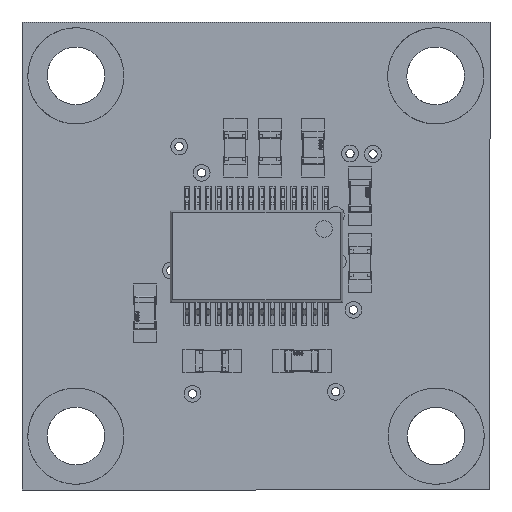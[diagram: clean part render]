
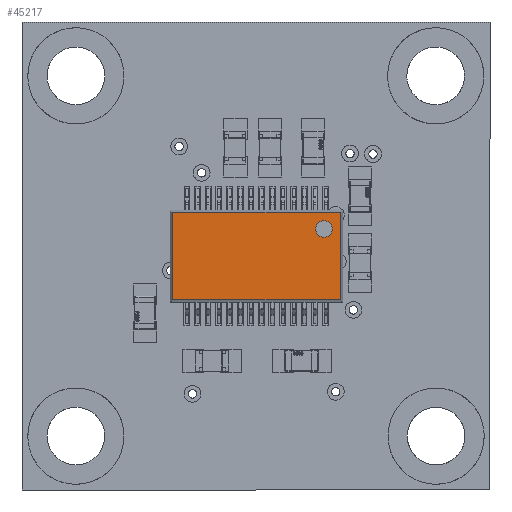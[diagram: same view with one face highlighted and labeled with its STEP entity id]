
A CAD part, front view. The second image highlights one B-rep face of the part: STEP entity #45217.
In plain terms, the highlighted planar face has unit normal (0, -1, 0).
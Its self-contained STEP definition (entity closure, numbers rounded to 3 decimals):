
#1574 = EDGE_LOOP ( 'NONE', ( #55185, #66506 ) ) ;
#3902 = VECTOR ( 'NONE', #50177, 1000. ) ;
#6732 = VERTEX_POINT ( 'NONE', #42696 ) ;
#8386 = CARTESIAN_POINT ( 'NONE',  ( 5.131, -3.631, -2.67 ) ) ;
#9967 = DIRECTION ( 'NONE',  ( -1., 0., 0. ) ) ;
#13702 = CARTESIAN_POINT ( 'NONE',  ( 5.131, -3.631, 2.637 ) ) ;
#13741 = DIRECTION ( 'NONE',  ( -1., 0., 0. ) ) ;
#14467 = CIRCLE ( 'NONE', #46772, 0.5 ) ;
#15947 = VERTEX_POINT ( 'NONE', #8386 ) ;
#15967 = LINE ( 'NONE', #37533, #3902 ) ;
#16150 = CARTESIAN_POINT ( 'NONE',  ( 4.631, -3.631, 1.637 ) ) ;
#17526 = ORIENTED_EDGE ( 'NONE', *, *, #83028, .F. ) ;
#19295 = DIRECTION ( 'NONE',  ( -1., 0., 0. ) ) ;
#19433 = EDGE_LOOP ( 'NONE', ( #47660, #74478, #40018, #17526 ) ) ;
#23121 = CARTESIAN_POINT ( 'NONE',  ( 4.131, -3.631, 1.637 ) ) ;
#23939 = LINE ( 'NONE', #81767, #69023 ) ;
#24561 = DIRECTION ( 'NONE',  ( 1., 0., 0. ) ) ;
#29010 = DIRECTION ( 'NONE',  ( -1., 0., 0. ) ) ;
#30055 = DIRECTION ( 'NONE',  ( 0., 0., 1. ) ) ;
#31961 = CARTESIAN_POINT ( 'NONE',  ( 5.277, -3.631, -2.67 ) ) ;
#35552 = VERTEX_POINT ( 'NONE', #13702 ) ;
#35949 = CARTESIAN_POINT ( 'NONE',  ( -5.076, -3.631, 2.637 ) ) ;
#36696 = FACE_BOUND ( 'NONE', #1574, .T. ) ;
#37533 = CARTESIAN_POINT ( 'NONE',  ( 5.131, -3.631, -2.816 ) ) ;
#37680 = EDGE_CURVE ( 'NONE', #6732, #71365, #39413, .T. ) ;
#38446 = AXIS2_PLACEMENT_3D ( 'NONE', #74176, #49020, #9967 ) ;
#39413 = LINE ( 'NONE', #61446, #82505 ) ;
#40018 = ORIENTED_EDGE ( 'NONE', *, *, #72444, .F. ) ;
#40821 = VECTOR ( 'NONE', #19295, 1000. ) ;
#42696 = CARTESIAN_POINT ( 'NONE',  ( -5.076, -3.631, -2.67 ) ) ;
#45217 = ADVANCED_FACE ( 'NONE', ( #82866, #36696 ), #51116, .T. ) ;
#46316 = EDGE_CURVE ( 'NONE', #79855, #55736, #14467, .T. ) ;
#46772 = AXIS2_PLACEMENT_3D ( 'NONE', #23121, #61500, #29010 ) ;
#47660 = ORIENTED_EDGE ( 'NONE', *, *, #37680, .F. ) ;
#49020 = DIRECTION ( 'NONE',  ( 0., 1., 0. ) ) ;
#50177 = DIRECTION ( 'NONE',  ( 0., 0., -1. ) ) ;
#51116 = PLANE ( 'NONE',  #51162 ) ;
#51162 = AXIS2_PLACEMENT_3D ( 'NONE', #52218, #83311, #13741 ) ;
#52218 = CARTESIAN_POINT ( 'NONE',  ( 5.277, -3.631, -2.816 ) ) ;
#55185 = ORIENTED_EDGE ( 'NONE', *, *, #46316, .T. ) ;
#55736 = VERTEX_POINT ( 'NONE', #16150 ) ;
#57816 = LINE ( 'NONE', #31961, #40821 ) ;
#60074 = CIRCLE ( 'NONE', #38446, 0.5 ) ;
#61446 = CARTESIAN_POINT ( 'NONE',  ( -5.076, -3.631, -2.816 ) ) ;
#61500 = DIRECTION ( 'NONE',  ( 0., 1., 0. ) ) ;
#63331 = CARTESIAN_POINT ( 'NONE',  ( 3.631, -3.631, 1.637 ) ) ;
#66506 = ORIENTED_EDGE ( 'NONE', *, *, #72929, .T. ) ;
#69023 = VECTOR ( 'NONE', #24561, 1000. ) ;
#71365 = VERTEX_POINT ( 'NONE', #35949 ) ;
#72444 = EDGE_CURVE ( 'NONE', #35552, #15947, #15967, .T. ) ;
#72929 = EDGE_CURVE ( 'NONE', #55736, #79855, #60074, .T. ) ;
#74176 = CARTESIAN_POINT ( 'NONE',  ( 4.131, -3.631, 1.637 ) ) ;
#74478 = ORIENTED_EDGE ( 'NONE', *, *, #74959, .F. ) ;
#74959 = EDGE_CURVE ( 'NONE', #15947, #6732, #57816, .T. ) ;
#79855 = VERTEX_POINT ( 'NONE', #63331 ) ;
#81767 = CARTESIAN_POINT ( 'NONE',  ( 5.277, -3.631, 2.637 ) ) ;
#82505 = VECTOR ( 'NONE', #30055, 1000. ) ;
#82866 = FACE_OUTER_BOUND ( 'NONE', #19433, .T. ) ;
#83028 = EDGE_CURVE ( 'NONE', #71365, #35552, #23939, .T. ) ;
#83311 = DIRECTION ( 'NONE',  ( 0., -1., 0. ) ) ;
